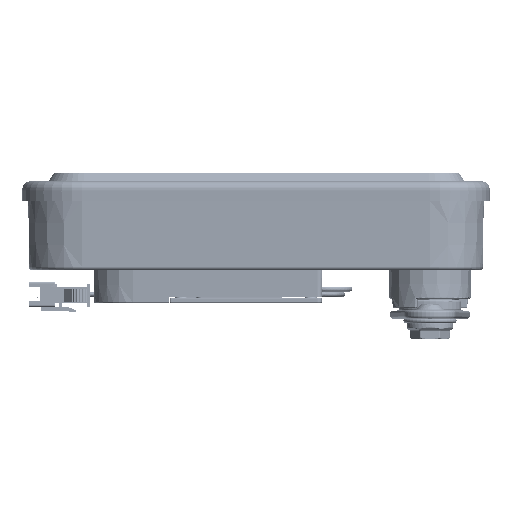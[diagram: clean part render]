
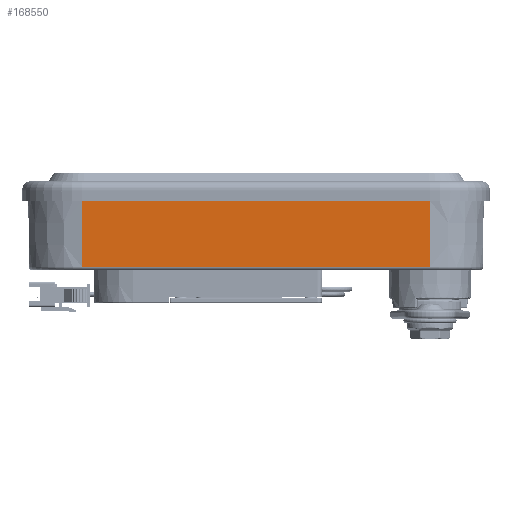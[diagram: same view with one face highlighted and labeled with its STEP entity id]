
A CAD part, top view. The second image highlights one B-rep face of the part: STEP entity #168550.
In plain terms, the highlighted planar face has unit normal (0, -0.018, 1).
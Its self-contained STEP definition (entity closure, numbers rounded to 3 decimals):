
#166422=DIRECTION('',(1.,0.,0.));
#166423=VECTOR('',#166422,105.);
#166424=CARTESIAN_POINT('',(-49.9,-24.817,
16.07));
#166425=LINE('',#166424,#166423);
#166426=DIRECTION('',(0.,1.,0.017));
#166427=VECTOR('',#166426,19.82);
#166428=CARTESIAN_POINT('',(-49.9,-24.817,
16.07));
#166429=LINE('',#166428,#166427);
#166430=DIRECTION('',(-1.,0.,0.));
#166431=VECTOR('',#166430,105.);
#166432=CARTESIAN_POINT('',(55.1,-5.,16.416));
#166433=LINE('',#166432,#166431);
#166434=DIRECTION('',(0.,-1.,
-0.017));
#166435=VECTOR('',#166434,19.82);
#166436=CARTESIAN_POINT('',(55.1,-5.,16.416));
#166437=LINE('',#166436,#166435);
#168039=CARTESIAN_POINT('',(55.1,-5.,16.416));
#168041=VERTEX_POINT('',#168039);
#168042=CARTESIAN_POINT('',(-49.9,-5.,16.416));
#168044=VERTEX_POINT('',#168042);
#168054=CARTESIAN_POINT('',(-49.9,-24.817,
16.07));
#168055=VERTEX_POINT('',#168054);
#168058=CARTESIAN_POINT('',(55.1,-24.817,
16.07));
#168059=VERTEX_POINT('',#168058);
#168537=CARTESIAN_POINT('',(57.3,-5.,16.416));
#168538=DIRECTION('',(0.,-0.017,1.));
#168539=DIRECTION('',(-1.,0.,0.));
#168540=AXIS2_PLACEMENT_3D('',#168537,#168538,#168539);
#168541=PLANE('',#168540);
#168543=ORIENTED_EDGE('',*,*,#168542,.F.);
#168544=ORIENTED_EDGE('',*,*,#168532,.T.);
#168545=ORIENTED_EDGE('',*,*,#168472,.F.);
#168547=ORIENTED_EDGE('',*,*,#168546,.T.);
#168548=EDGE_LOOP('',(#168543,#168544,#168545,#168547));
#168549=FACE_OUTER_BOUND('',#168548,.F.);
#168550=ADVANCED_FACE('',(#168549),#168541,.T.);
#168472=EDGE_CURVE('',#168041,#168044,#166433,.T.);
#168532=EDGE_CURVE('',#168055,#168044,#166429,.T.);
#168542=EDGE_CURVE('',#168055,#168059,#166425,.T.);
#168546=EDGE_CURVE('',#168041,#168059,#166437,.T.);
